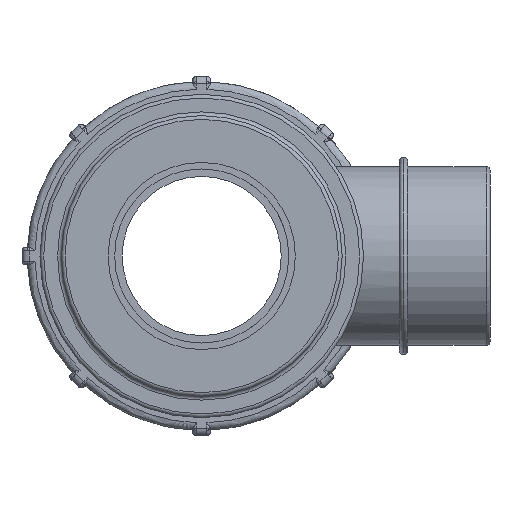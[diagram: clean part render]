
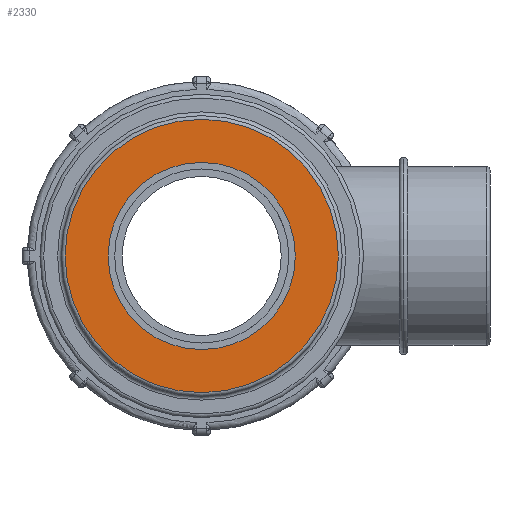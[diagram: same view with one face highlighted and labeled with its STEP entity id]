
A CAD part, left-side view. The second image highlights one B-rep face of the part: STEP entity #2330.
In plain terms, the highlighted planar face has unit normal (-1, 0, 0).
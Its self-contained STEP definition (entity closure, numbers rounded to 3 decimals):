
#255=PLANE('',#2503);
#384=FACE_BOUND('',#610,.T.);
#439=FACE_OUTER_BOUND('',#609,.T.);
#609=EDGE_LOOP('',(#1591));
#610=EDGE_LOOP('',(#1592));
#826=CIRCLE('',#2499,36.5);
#829=CIRCLE('',#2504,25.);
#1015=VERTEX_POINT('',#3641);
#1018=VERTEX_POINT('',#3649);
#1245=EDGE_CURVE('',#1015,#1015,#826,.T.);
#1248=EDGE_CURVE('',#1018,#1018,#829,.T.);
#1591=ORIENTED_EDGE('',*,*,#1245,.F.);
#1592=ORIENTED_EDGE('',*,*,#1248,.T.);
#2330=ADVANCED_FACE('',(#439,#384),#255,.T.);
#2499=AXIS2_PLACEMENT_3D('',#3642,#2827,#2828);
#2503=AXIS2_PLACEMENT_3D('',#3648,#2835,#2836);
#2504=AXIS2_PLACEMENT_3D('',#3650,#2837,#2838);
#2827=DIRECTION('center_axis',(1.,0.,0.));
#2828=DIRECTION('ref_axis',(0.,-1.,0.));
#2835=DIRECTION('center_axis',(-1.,0.,0.));
#2836=DIRECTION('ref_axis',(0.,0.,1.));
#2837=DIRECTION('center_axis',(1.,0.,0.));
#2838=DIRECTION('ref_axis',(0.,0.,-1.));
#3641=CARTESIAN_POINT('',(-81.325,36.5,0.));
#3642=CARTESIAN_POINT('Origin',(-81.325,0.,0.));
#3648=CARTESIAN_POINT('Origin',(-81.325,37.5,0.));
#3649=CARTESIAN_POINT('',(-81.325,25.,0.));
#3650=CARTESIAN_POINT('Origin',(-81.325,0.,0.));
